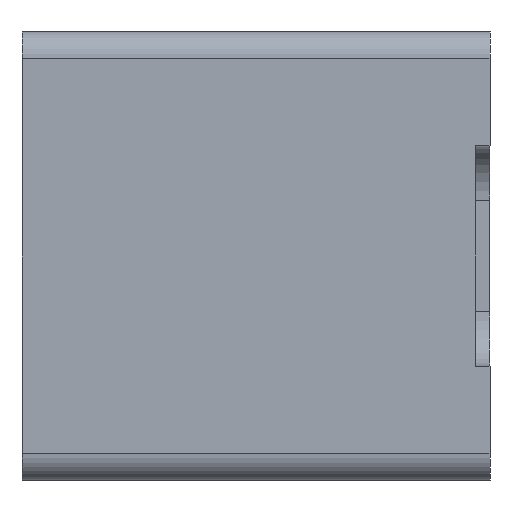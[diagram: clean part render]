
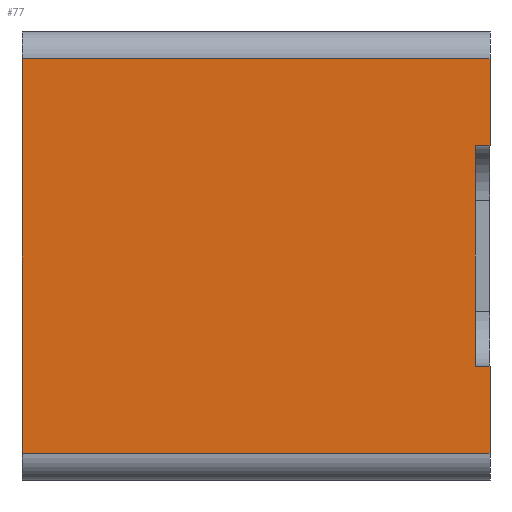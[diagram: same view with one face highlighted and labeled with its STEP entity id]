
A CAD part, left-side view. The second image highlights one B-rep face of the part: STEP entity #77.
In plain terms, the highlighted planar face has unit normal (-1, 0, 0).
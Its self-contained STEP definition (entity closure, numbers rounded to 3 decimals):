
#28 = EDGE_CURVE ( 'NONE', #338, #144, #792, .T. ) ;
#33 = CARTESIAN_POINT ( 'NONE',  ( -18., -8.6, 1. ) ) ;
#40 = CARTESIAN_POINT ( 'NONE',  ( -18., -8.05, 12.3 ) ) ;
#53 = DIRECTION ( 'NONE',  ( 0., 1., 0. ) ) ;
#67 = DIRECTION ( 'NONE',  ( 0., 0., -1. ) ) ;
#77 = ADVANCED_FACE ( 'NONE', ( #715 ), #425, .F. ) ;
#80 = CARTESIAN_POINT ( 'NONE',  ( -18., -8.6, 12.3 ) ) ;
#82 = LINE ( 'NONE', #33, #849 ) ;
#107 = ORIENTED_EDGE ( 'NONE', *, *, #113, .T. ) ;
#113 = EDGE_CURVE ( 'NONE', #985, #343, #490, .T. ) ;
#121 = VECTOR ( 'NONE', #541, 1000. ) ;
#144 = VERTEX_POINT ( 'NONE', #998 ) ;
#181 = ORIENTED_EDGE ( 'NONE', *, *, #772, .T. ) ;
#212 = LINE ( 'NONE', #299, #888 ) ;
#220 = LINE ( 'NONE', #870, #121 ) ;
#228 = ORIENTED_EDGE ( 'NONE', *, *, #242, .F. ) ;
#242 = EDGE_CURVE ( 'NONE', #584, #759, #212, .T. ) ;
#251 = CARTESIAN_POINT ( 'NONE',  ( -18., 8.6, 1. ) ) ;
#276 = LINE ( 'NONE', #319, #797 ) ;
#278 = CARTESIAN_POINT ( 'NONE',  ( -18., -8.05, 4.2 ) ) ;
#280 = VECTOR ( 'NONE', #928, 1000. ) ;
#283 = ORIENTED_EDGE ( 'NONE', *, *, #359, .T. ) ;
#299 = CARTESIAN_POINT ( 'NONE',  ( -18., -8.6, 16.5 ) ) ;
#319 = CARTESIAN_POINT ( 'NONE',  ( -18., 8.6, 15.5 ) ) ;
#338 = VERTEX_POINT ( 'NONE', #812 ) ;
#343 = VERTEX_POINT ( 'NONE', #251 ) ;
#356 = CARTESIAN_POINT ( 'NONE',  ( -18., -8.6, 16.5 ) ) ;
#359 = EDGE_CURVE ( 'NONE', #338, #644, #840, .T. ) ;
#393 = AXIS2_PLACEMENT_3D ( 'NONE', #611, #605, #67 ) ;
#424 = LINE ( 'NONE', #521, #474 ) ;
#425 = PLANE ( 'NONE',  #393 ) ;
#431 = VERTEX_POINT ( 'NONE', #40 ) ;
#472 = EDGE_CURVE ( 'NONE', #343, #144, #82, .T. ) ;
#474 = VECTOR ( 'NONE', #53, 1000. ) ;
#490 = LINE ( 'NONE', #856, #280 ) ;
#521 = CARTESIAN_POINT ( 'NONE',  ( -18., -8.6, 12.3 ) ) ;
#534 = DIRECTION ( 'NONE',  ( 0., 0., -1. ) ) ;
#541 = DIRECTION ( 'NONE',  ( 0., 0., 1. ) ) ;
#570 = DIRECTION ( 'NONE',  ( 0., -1., 0. ) ) ;
#584 = VERTEX_POINT ( 'NONE', #616 ) ;
#591 = EDGE_CURVE ( 'NONE', #759, #431, #424, .T. ) ;
#605 = DIRECTION ( 'NONE',  ( 1., 0., 0. ) ) ;
#611 = CARTESIAN_POINT ( 'NONE',  ( -18., -8.6, 16.5 ) ) ;
#616 = CARTESIAN_POINT ( 'NONE',  ( -18., -8.6, 15.5 ) ) ;
#644 = VERTEX_POINT ( 'NONE', #278 ) ;
#660 = VECTOR ( 'NONE', #677, 1000. ) ;
#677 = DIRECTION ( 'NONE',  ( 0., 0., -1. ) ) ;
#683 = VECTOR ( 'NONE', #809, 1000. ) ;
#715 = FACE_OUTER_BOUND ( 'NONE', #782, .T. ) ;
#740 = CARTESIAN_POINT ( 'NONE',  ( -18., 8.6, 15.5 ) ) ;
#759 = VERTEX_POINT ( 'NONE', #80 ) ;
#772 = EDGE_CURVE ( 'NONE', #644, #431, #220, .T. ) ;
#782 = EDGE_LOOP ( 'NONE', ( #107, #848, #867, #283, #181, #921, #228, #838 ) ) ;
#792 = LINE ( 'NONE', #356, #660 ) ;
#797 = VECTOR ( 'NONE', #880, 1000. ) ;
#809 = DIRECTION ( 'NONE',  ( 0., 1., 0. ) ) ;
#812 = CARTESIAN_POINT ( 'NONE',  ( -18., -8.6, 4.2 ) ) ;
#838 = ORIENTED_EDGE ( 'NONE', *, *, #961, .T. ) ;
#840 = LINE ( 'NONE', #887, #683 ) ;
#848 = ORIENTED_EDGE ( 'NONE', *, *, #472, .T. ) ;
#849 = VECTOR ( 'NONE', #570, 1000. ) ;
#856 = CARTESIAN_POINT ( 'NONE',  ( -18., 8.6, 16.5 ) ) ;
#867 = ORIENTED_EDGE ( 'NONE', *, *, #28, .F. ) ;
#870 = CARTESIAN_POINT ( 'NONE',  ( -18., -8.05, 16.5 ) ) ;
#880 = DIRECTION ( 'NONE',  ( 0., 1., 0. ) ) ;
#887 = CARTESIAN_POINT ( 'NONE',  ( -18., -8.6, 4.2 ) ) ;
#888 = VECTOR ( 'NONE', #534, 1000. ) ;
#921 = ORIENTED_EDGE ( 'NONE', *, *, #591, .F. ) ;
#928 = DIRECTION ( 'NONE',  ( 0., 0., -1. ) ) ;
#961 = EDGE_CURVE ( 'NONE', #584, #985, #276, .T. ) ;
#985 = VERTEX_POINT ( 'NONE', #740 ) ;
#998 = CARTESIAN_POINT ( 'NONE',  ( -18., -8.6, 1. ) ) ;
